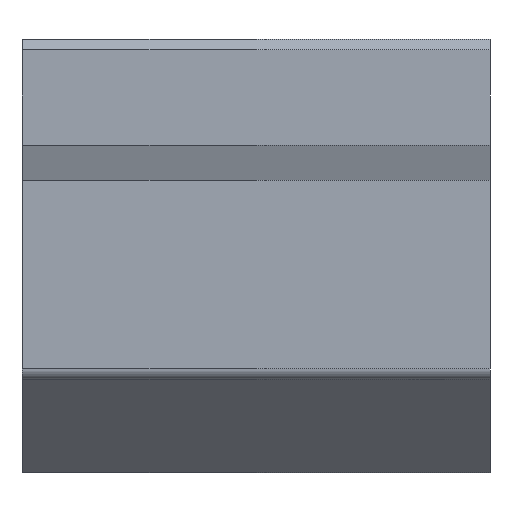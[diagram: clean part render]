
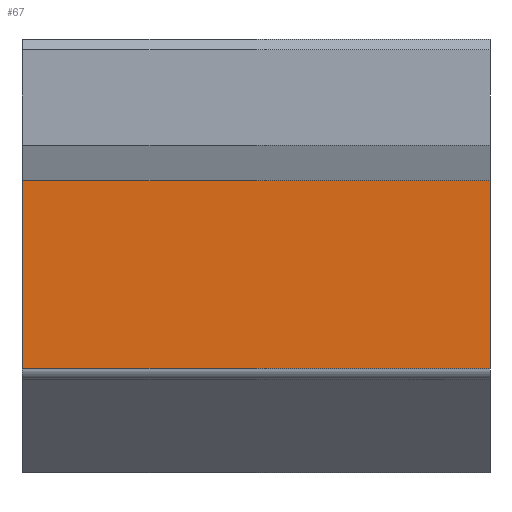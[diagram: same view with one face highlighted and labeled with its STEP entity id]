
A CAD part, front view. The second image highlights one B-rep face of the part: STEP entity #67.
In plain terms, the highlighted planar face has unit normal (0, -1, 0).
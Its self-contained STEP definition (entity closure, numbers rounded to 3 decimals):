
#67 = ADVANCED_FACE( '', ( #170 ), #171, .T. );
#170 = FACE_OUTER_BOUND( '', #333, .T. );
#171 = PLANE( '', #334 );
#333 = EDGE_LOOP( '', ( #490, #491, #492, #493 ) );
#334 = AXIS2_PLACEMENT_3D( '', #494, #495, #496 );
#490 = ORIENTED_EDGE( '', *, *, #850, .T. );
#491 = ORIENTED_EDGE( '', *, *, #851, .T. );
#492 = ORIENTED_EDGE( '', *, *, #852, .T. );
#493 = ORIENTED_EDGE( '', *, *, #853, .F. );
#494 = CARTESIAN_POINT( '', ( 0., -58., -25.5 ) );
#495 = DIRECTION( '', ( 0., -1., 0. ) );
#496 = DIRECTION( '', ( 0., 0., -1. ) );
#850 = EDGE_CURVE( '', #987, #988, #989, .T. );
#851 = EDGE_CURVE( '', #988, #990, #991, .F. );
#852 = EDGE_CURVE( '', #990, #992, #993, .T. );
#853 = EDGE_CURVE( '', #987, #992, #994, .T. );
#987 = VERTEX_POINT( '', #1194 );
#988 = VERTEX_POINT( '', #1195 );
#989 = LINE( '', #1196, #1197 );
#990 = VERTEX_POINT( '', #1198 );
#991 = LINE( '', #1199, #1200 );
#992 = VERTEX_POINT( '', #1201 );
#993 = LINE( '', #1202, #1203 );
#994 = LINE( '', #1204, #1205 );
#1194 = CARTESIAN_POINT( '', ( 0., -58., 18.758 ) );
#1195 = CARTESIAN_POINT( '', ( 0., -58., -25.5 ) );
#1196 = CARTESIAN_POINT( '', ( 0., -58., 18.758 ) );
#1197 = VECTOR( '', #1468, 1000. );
#1198 = CARTESIAN_POINT( '', ( 110., -58., -25.5 ) );
#1199 = CARTESIAN_POINT( '', ( 110., -58., -25.5 ) );
#1200 = VECTOR( '', #1469, 1000. );
#1201 = CARTESIAN_POINT( '', ( 110., -58., 18.758 ) );
#1202 = CARTESIAN_POINT( '', ( 110., -58., 18.758 ) );
#1203 = VECTOR( '', #1470, 1000. );
#1204 = CARTESIAN_POINT( '', ( 0., -58., 18.758 ) );
#1205 = VECTOR( '', #1471, 1000. );
#1468 = DIRECTION( '', ( 0., 0., -1. ) );
#1469 = DIRECTION( '', ( -1., 0., 0. ) );
#1470 = DIRECTION( '', ( 0., 0., 1. ) );
#1471 = DIRECTION( '', ( 1., 0., 0. ) );
